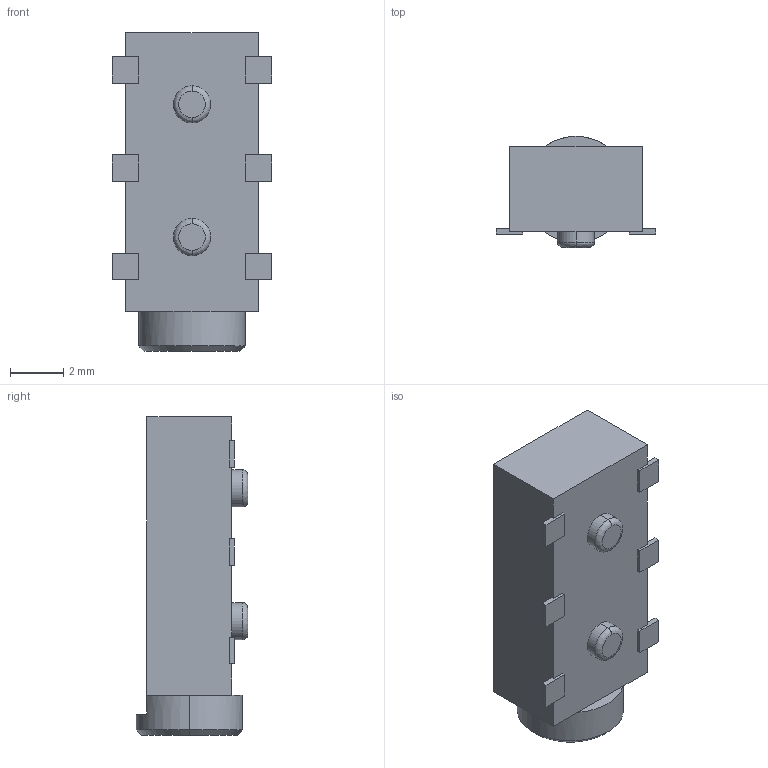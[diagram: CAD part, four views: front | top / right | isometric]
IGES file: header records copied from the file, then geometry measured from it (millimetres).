
Start section:  PTC IGES file: phonejack-tg286d_prt.igs
Global section: file name: phonejack-tg286d_prt.igs; native system: Pro/ENGINEER by Parametric Technology Corporation; preprocessor: 2006170; author: GRA; organization: Unknown; date: 20080630.105206; units: millimetre
Bounding box: 6 x 4.2 x 12 mm (x, y, z)
Surface area: 237.5 mm2 (no closed solid volume)
Topology: 0 solids, 0 shells, 60 faces, 320 edges, 320 vertices
Faces by surface type: bspline 48, revolution 12
